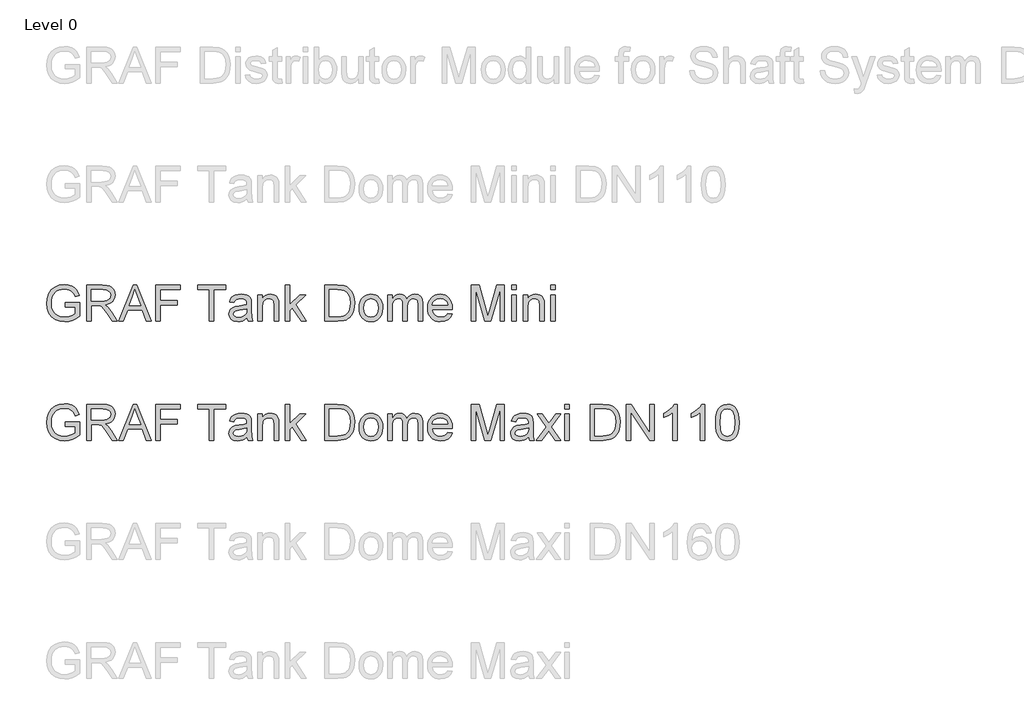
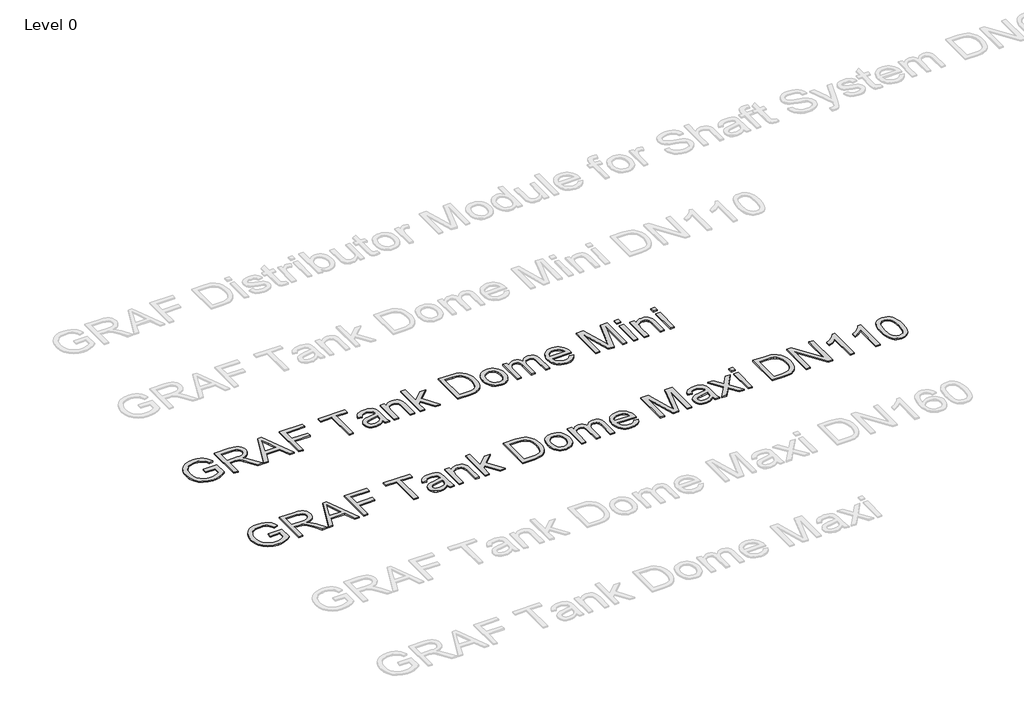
# One storey, part 9 of 25: 2 proxies.
"""IFC4 building model written with IfcOpenShell, lengths in millimetres."""

from ifc_helpers import new_model, si_unit, origin, origin_with_axes, place, context, project, spatial, polyline, outline, extrude, element, save

model = new_model("IFC4")

# Units and contexts
model_context = context("Model", 3, world=origin())
ifc_project = project(units=[si_unit("LENGTHUNIT", "METRE", prefix="MILLI")], contexts=[model_context])

# Site, building, storey
site = spatial("IfcSite", under=ifc_project)
building = spatial("IfcBuilding", under=site)
storey = spatial("IfcBuildingStorey", under=building, Name="Level 0", Elevation=0.0)

# Proxies
placement = place(None, origin())
element("IfcBuildingElementProxy", 1, Name="300mm Arial", ObjectType="300mm Arial", at=placement, inside=storey, context=model_context, shape_type="SweptSolid", body=[
    extrude(outline(polyline([(-15240.9940387, -2083.2545597), (-15240.9940387, -2045.5834434), (-15118.5629107, -2045.5834434), (-15118.5629107, -2158.2289103), (-15148.3153671, -2178.9222726), (-15179.0059225, -2193.7663111), (-15210.5610007, -2202.7058436), (-15242.9070251, -2205.6856877), (-15285.1674693, -2200.949207), (-15323.3628175, -2186.739765), (-15355.0926395, -2163.5540022), (-15377.9565055, -2131.8885595), (-15391.7796715, -2093.9047435), (-15396.3873935, -2051.7638609), (-15391.7980656, -2009.3194757), (-15378.0300819, -1969.8365406), (-15355.6536596, -1936.717964), (-15325.2390156, -1913.3666543), (-15288.1932987, -1899.5158972), (-15245.9236575, -1894.8989782), (-15214.8928112, -1897.5753197), (-15186.9889618, -1905.6043443), (-15163.4904994, -1918.4066377), (-15145.6758138, -1935.4027859), (-15132.4964413, -1957.4113262), (-15122.9039183, -1985.2507962), (-15157.6319786, -1995.0364573), (-15165.3850917, -1975.1800266), (-15174.8120678, -1960.1980323), (-15187.2832674, -1948.9040551), (-15204.169051, -1940.1116754), (-15224.3013932, -1934.4554897), (-15246.5122687, -1932.5700945), (-15272.5123287, -1934.6026425), (-15294.7415982, -1940.7002866), (-15313.1173039, -1950.0996716), (-15327.5566722, -1962.0374423), (-15346.9440533, -1991.0633317), (-15355.7732212, -2019.50061), (-15358.7162772, -2050.2187566), (-15355.175413, -2086.2436009), (-15344.5528204, -2115.8856927), (-15327.1703961, -2138.9334997), (-15303.3500369, -2155.1754898), (-15275.4737787, -2164.804801), (-15245.9236575, -2168.0145714), (-15219.831627, -2165.5957473), (-15194.3833899, -2158.3392749), (-15172.2828791, -2148.3420817), (-15156.234027, -2137.701095), (-15156.234027, -2083.2545597), (-15240.9940387, -2083.2545597)])), origin_with_axes(), (0.0, 0.0, 1.0), 10.0),
    extrude(outline(polyline([(-15057.3473467, -2200.9767982), (-15057.3473467, -1899.6078677), (-14927.4850024, -1899.6078677), (-14892.5821982, -1901.6404158), (-14867.1891434, -1907.7380598), (-14848.6294968, -1918.9952489), (-14834.2269167, -1936.5064318), (-14824.9838815, -1958.2206666), (-14821.9028698, -1982.087011), (-14827.0072325, -2011.7750881), (-14842.3203206, -2036.3863935), (-14853.9200997, -2046.4157764), (-14868.3019865, -2054.4310054), (-14905.4120827, -2064.4190016), (-14884.0013506, -2080.532233), (-14853.467145, -2119.3069952), (-14803.2144645, -2200.9767982), (-14846.9924219, -2200.9767982), (-14886.2086426, -2138.5104354), (-14914.5355562, -2097.1604991), (-14934.4379722, -2077.6259652), (-14952.3538253, -2070.4522663), (-14974.2060158, -2069.1278911), (-15019.6762304, -2069.1278911), (-15019.6762304, -2200.9767982), (-15057.3473467, -2200.9767982)]), holes=[polyline([(-15019.6762304, -2031.4567748), (-14935.3576771, -2031.4567748), (-14911.1418448, -2030.1232026), (-14892.3522719, -2026.1224859), (-14878.2072092, -2019.1879103), (-14867.9249074, -2009.0527613), (-14861.6617165, -1996.7930938), (-14859.5739861, -1983.4849626), (-14863.5563087, -1965.109257), (-14875.5032765, -1950.3020067), (-14896.058683, -1940.5347397), (-14925.8663217, -1937.278984), (-15019.6762304, -1937.278984), (-15019.6762304, -2031.4567748)])]), origin_with_axes(), (0.0, 0.0, 1.0), 10.0),
    extrude(outline(polyline([(-14791.0743586, -2200.9767982), (-14670.7769462, -1899.6078677), (-14638.6976362, -1899.6078677), (-14518.4002238, -2200.9767982), (-14558.2050557, -2200.9767982), (-14592.7123868, -2106.7990074), (-14716.835772, -2106.7990074), (-14751.2695268, -2200.9767982), (-14791.0743586, -2200.9767982)]), holes=[polyline([(-14703.003409, -2069.1278911), (-14606.4711735, -2069.1278911), (-14633.6208647, -1995.0364573), (-14654.7372912, -1937.278984), (-14673.499273, -1988.5617342), (-14703.003409, -2069.1278911)])]), origin_with_axes(), (0.0, 0.0, 1.0), 10.0),
    extrude(outline(polyline([(-14478.1539335, -2200.9767982), (-14478.1539335, -1899.6078677), (-14275.6716834, -1899.6078677), (-14275.6716834, -1937.278984), (-14440.4828172, -1937.278984), (-14440.4828172, -2026.7478853), (-14299.2161311, -2026.7478853), (-14299.2161311, -2064.4190016), (-14440.4828172, -2064.4190016), (-14440.4828172, -2200.9767982), (-14478.1539335, -2200.9767982)])), origin_with_axes(), (0.0, 0.0, 1.0), 10.0),
    extrude(outline(polyline([(-14030.8094274, -2200.9767982), (-14030.8094274, -1937.278984), (-14129.6961077, -1937.278984), (-14129.6961077, -1899.6078677), (-13894.2516308, -1899.6078677), (-13894.2516308, -1937.278984), (-13993.1383111, -1937.278984), (-13993.1383111, -2200.9767982), (-14030.8094274, -2200.9767982)])), origin_with_axes(), (0.0, 0.0, 1.0), 10.0),
    extrude(outline(polyline([(-13715.3138283, -2172.7234609), (-13733.312455, -2188.1561106), (-13751.8445105, -2198.2544714), (-13771.3330592, -2203.8278836), (-13792.2011653, -2205.6856877), (-13823.6826671, -2201.2159215), (-13846.905218, -2187.8066228), (-13861.2250247, -2167.4443543), (-13865.9982936, -2142.1156789), (-13864.1956718, -2126.4990883), (-13858.7878065, -2112.3172373), (-13850.4460822, -2100.1771315), (-13839.8418837, -2090.685776), (-13813.4647447, -2078.324941), (-13780.8703999, -2072.6595583), (-13742.353155, -2066.6998699), (-13715.5345575, -2059.710112), (-13715.3138283, -2051.3224025), (-13717.9073964, -2034.5101954), (-13725.6881006, -2023.5105237), (-13743.088919, -2015.3435434), (-13767.3323425, -2012.6212166), (-13789.7731442, -2014.4330355), (-13805.4449172, -2019.868492), (-13816.1318891, -2029.9208675), (-13823.6182877, -2045.5834434), (-13861.289404, -2040.8745539), (-13854.7503016, -2020.2731621), (-13844.9922316, -2004.0863544), (-13831.1046863, -1991.7071252), (-13812.1771577, -1982.5284694), (-13789.0281831, -1976.8446926), (-13762.4763001, -1974.9501003), (-13737.009669, -1976.6239634), (-13716.8221445, -1981.6455527), (-13701.601027, -1989.1963306), (-13691.0336167, -1998.4577598), (-13684.0254646, -2009.9080869), (-13679.482122, -2024.0255585), (-13677.642712, -2056.9877853), (-13677.642712, -2103.8559515), (-13675.7297257, -2169.3021584), (-13668.224933, -2200.9767982), (-13705.8960493, -2200.9767982), (-13715.3138283, -2172.7234609)]), holes=[polyline([(-13715.3138283, -2097.3812283), (-13776.0879339, -2108.932723), (-13808.4983377, -2115.0395641), (-13823.1768293, -2124.972378), (-13828.3271773, -2139.4669286), (-13825.522077, -2150.6689353), (-13817.1067764, -2159.8475911), (-13803.2652163, -2165.9728263), (-13784.1813378, -2168.0145714), (-13763.9478281, -2165.7612942), (-13746.0687631, -2159.0014625), (-13731.5742125, -2149.0410575), (-13721.4942459, -2137.1860602), (-13717.0244796, -2124.972378), (-13715.5345575, -2108.0498062), (-13715.3138283, -2097.3812283)])]), origin_with_axes(), (0.0, 0.0, 1.0), 10.0),
    extrude(outline(polyline([(-13625.8449271, -2200.9767982), (-13625.8449271, -1979.6589899), (-13588.1738108, -1979.6589899), (-13588.1738108, -2010.5610775), (-13575.0864088, -1994.981275), (-13559.3686506, -1983.8528446), (-13541.0205361, -1977.1757864), (-13520.0420653, -1974.9501003), (-13501.4732216, -1976.7435251), (-13484.4678764, -1982.1237992), (-13470.2860255, -1990.4195382), (-13460.1876647, -2000.9593574), (-13448.8936874, -2028.6608716), (-13446.9071247, -2065.0811892), (-13446.9071247, -2200.9767982), (-13484.578241, -2200.9767982), (-13484.578241, -2070.1579607), (-13488.9192485, -2036.8278519), (-13494.9249221, -2026.9042351), (-13504.2599277, -2019.2063044), (-13516.2252896, -2014.2674886), (-13530.122032, -2012.6212166), (-13552.1857546, -2016.3184307), (-13570.9937216, -2027.4100729), (-13578.5100106, -2036.4645685), (-13583.8787885, -2048.8391991), (-13588.1738108, -2083.5488653), (-13588.1738108, -2200.9767982), (-13625.8449271, -2200.9767982)])), origin_with_axes(), (0.0, 0.0, 1.0), 10.0),
    extrude(outline(polyline([(-13395.1093397, -2200.9767982), (-13395.1093397, -1899.6078677), (-13357.4382234, -1899.6078677), (-13357.4382234, -2061.549522), (-13272.9725173, -1979.6589899), (-13220.8804268, -1979.6589899), (-13306.3762025, -2062.5795916), (-13216.1715373, -2200.9767982), (-13260.1702239, -2200.9767982), (-13333.3787409, -2088.7727896), (-13357.4382234, -2112.0965081), (-13357.4382234, -2200.9767982), (-13395.1093397, -2200.9767982)])), origin_with_axes(), (0.0, 0.0, 1.0), 10.0),
    extrude(outline(polyline([(-13060.7781825, -2200.9767982), (-13060.7781825, -1899.6078677), (-12956.8147307, -1899.6078677), (-12903.030383, -1903.9488753), (-12879.0076887, -1912.3181907), (-12858.7373908, -1925.5067602), (-12837.8968757, -1948.4625967), (-12823.0528372, -1977.0102395), (-12814.1684871, -2010.5978657), (-12811.207037, -2048.6736522), (-12813.2119939, -2081.0196766), (-12819.2268645, -2109.484546), (-12828.3871262, -2133.7187724), (-12839.8282562, -2153.372868), (-12852.9984316, -2168.8882911), (-12867.3458295, -2180.7065002), (-12883.8177458, -2189.4712888), (-12903.3614768, -2195.8264502), (-12951.8115355, -2200.9767982), (-13060.7781825, -2200.9767982)]), holes=[polyline([(-13023.1070662, -2163.3056819), (-12956.4468487, -2163.3056819), (-12928.8740931, -2161.9445185), (-12907.9600017, -2157.8610283), (-12892.1778641, -2151.2943347), (-12880.0009701, -2142.4835609), (-12866.9135681, -2126.1771915), (-12857.0819218, -2105.069962), (-12850.9290954, -2079.069902), (-12848.8781533, -2048.085041), (-12852.8972641, -2007.0294103), (-12864.9545965, -1976.7159339), (-12882.7692821, -1955.893813), (-12904.0604526, -1943.3122488), (-12925.7287021, -1938.7873002), (-12957.4769183, -1937.278984), (-13023.1070662, -1937.278984), (-13023.1070662, -2163.3056819)])]), origin_with_axes(), (0.0, 0.0, 1.0), 10.0),
    extrude(outline(polyline([(-12773.5359207, -2090.317894), (-12771.4987741, -2061.6552881), (-12765.3873345, -2036.9566106), (-12755.2016018, -2016.2218617), (-12740.9415759, -1999.4510412), (-12726.5849811, -1988.7318796), (-12710.7384641, -1981.0753356), (-12693.4020251, -1976.4814091), (-12674.575664, -1974.9501003), (-12653.7926305, -1976.8148022), (-12635.0007584, -1982.4089078), (-12618.2000475, -1991.7324171), (-12603.3904979, -2004.7853302), (-12591.3032751, -2021.1261885), (-12582.6695445, -2040.3135338), (-12577.4893062, -2062.3473661), (-12575.7625601, -2087.2276853), (-12578.8159806, -2125.2850777), (-12587.9762423, -2154.2557848), (-12602.9766307, -2175.9516255), (-12623.5504313, -2192.1844185), (-12647.9869928, -2202.3103704), (-12674.575664, -2205.6856877), (-12695.6622001, -2203.8278836), (-12714.6288162, -2198.2544714), (-12731.4755123, -2188.965451), (-12746.2022884, -2175.9608225), (-12758.1607526, -2159.461315), (-12766.7025126, -2139.6876578), (-12771.8275687, -2116.6398508), (-12773.5359207, -2090.317894)]), holes=[polyline([(-12735.8648044, -2090.2443176), (-12731.5054027, -2124.3377815), (-12718.4271978, -2148.6271903), (-12698.7455111, -2163.1677261), (-12674.575664, -2168.0145714), (-12650.5161815, -2163.140135), (-12630.871283, -2148.5168257), (-12617.793078, -2123.9055202), (-12613.4336764, -2089.0670952), (-12617.8206692, -2055.9669127), (-12630.9816476, -2032.0085978), (-12650.6541372, -2017.4680619), (-12674.575664, -2012.6212166), (-12698.7455111, -2017.4496678), (-12718.4271978, -2031.9350214), (-12731.5054027, -2056.1692478), (-12735.8648044, -2090.2443176)])]), origin_with_axes(), (0.0, 0.0, 1.0), 10.0),
    extrude(outline(polyline([(-12533.3825542, -2200.9767982), (-12533.3825542, -1979.6589899), (-12495.7114379, -1979.6589899), (-12495.7114379, -2016.0793074), (-12484.3806725, -1999.3498737), (-12469.8125455, -1986.2440776), (-12452.5036976, -1977.7735947), (-12432.9507696, -1974.9501003), (-12411.9998899, -1977.828777), (-12395.2060768, -1986.4648068), (-12382.6613008, -2000.2879728), (-12374.4575323, -2018.7280578), (-12360.7263368, -1999.5752014), (-12345.0637609, -1985.8945897), (-12327.4698045, -1977.6862227), (-12307.9444676, -1974.9501003), (-12279.626751, -1979.50264), (-12258.6850684, -1993.1602591), (-12245.7448193, -2016.2908395), (-12241.4314029, -2049.2622634), (-12241.4314029, -2200.9767982), (-12279.1025192, -2200.9767982), (-12279.1025192, -2065.4490712), (-12282.5973981, -2033.9951606), (-12287.5086228, -2025.3223425), (-12295.2525388, -2018.5073286), (-12305.2129438, -2014.0927446), (-12316.7736355, -2012.6212166), (-12337.1818892, -2016.3920071), (-12353.8193524, -2027.7043784), (-12364.8834034, -2047.3308829), (-12368.5714204, -2076.0440726), (-12368.5714204, -2200.9767982), (-12406.2425367, -2200.9767982), (-12406.2425367, -2061.2552164), (-12408.4222375, -2039.9548489), (-12414.96134, -2024.7613225), (-12426.4668494, -2015.6562431), (-12443.545771, -2012.6212166), (-12458.0587157, -2014.6445676), (-12471.4312262, -2020.7146205), (-12482.4676861, -2030.6842226), (-12489.9724788, -2044.406221), (-12494.2766981, -2063.4441143), (-12495.7114379, -2089.3614008), (-12495.7114379, -2200.9767982), (-12533.3825542, -2200.9767982)])), origin_with_axes(), (0.0, 0.0, 1.0), 10.0),
    extrude(outline(polyline([(-12029.972832, -2135.0523446), (-11993.0374797, -2139.7612342), (-12006.3456109, -2167.5915071), (-12027.5815991, -2188.3952339), (-12056.2671976, -2201.3630743), (-12091.92416, -2205.6856877), (-12115.2984623, -2203.8209859), (-12136.1251817, -2198.2268803), (-12154.4043184, -2188.9033709), (-12170.1358722, -2175.8504579), (-12182.7864143, -2159.4314246), (-12191.8225158, -2140.0095545), (-12197.2441767, -2117.5848477), (-12199.051397, -2092.157304), (-12197.2257826, -2065.8675369), (-12191.7489394, -2042.6955698), (-12182.6208674, -2022.6414025), (-12169.8415666, -2005.7050351), (-12154.1513995, -1992.2497512), (-12136.2907286, -1982.638834), (-12116.259554, -1976.8722838), (-12094.0578756, -1974.9501003), (-12072.5712678, -1976.8676852), (-12053.1402007, -1982.6204399), (-12035.7646742, -1992.2083644), (-12020.4446884, -2005.6314587), (-12007.9389998, -2022.5310379), (-11999.0063651, -2042.548417), (-11993.6467843, -2065.6835959), (-11991.8602573, -2091.9365748), (-11992.0809865, -2102.0901179), (-12161.3802807, -2102.0901179), (-12154.8595723, -2130.2882728), (-12139.7120312, -2151.0184232), (-12117.8506436, -2163.7655344), (-12091.188396, -2168.0145714), (-12071.1388273, -2166.0464027), (-12054.2530437, -2160.1418967), (-12040.5310453, -2149.9331713), (-12029.972832, -2135.0523446)]), holes=[polyline([(-12161.3802807, -2064.4190016), (-12029.5313736, -2064.4190016), (-12034.6265393, -2044.5165856), (-12044.6145354, -2030.2795524), (-12066.5770906, -2017.0358006), (-12094.2050284, -2012.6212166), (-12119.5980831, -2016.1436868), (-12140.594948, -2026.7110971), (-12155.1906661, -2043.1830134), (-12161.3802807, -2064.4190016)])]), origin_with_axes(), (0.0, 0.0, 1.0), 10.0),
    extrude(outline(polyline([(-11831.758013, -2200.9767982), (-11831.758013, -1899.6078677), (-11766.9372055, -1899.6078677), (-11705.2801831, -2112.0229317), (-11692.8457717, -2156.3895004), (-11679.3812906, -2108.3441118), (-11618.7543378, -1899.6078677), (-11553.9335303, -1899.6078677), (-11553.9335303, -2200.9767982), (-11591.6046466, -2200.9767982), (-11591.6046466, -1937.278984), (-11667.3147612, -2200.9767982), (-11718.3767821, -2200.9767982), (-11794.0868967, -1937.278984), (-11794.0868967, -2200.9767982), (-11831.758013, -2200.9767982)])), origin_with_axes(), (0.0, 0.0, 1.0), 10.0),
    extrude(outline(polyline([(-11492.7179663, -1937.278984), (-11492.7179663, -1899.6078677), (-11455.04685, -1899.6078677), (-11455.04685, -1937.278984), (-11492.7179663, -1937.278984)])), origin_with_axes(), (0.0, 0.0, 1.0), 10.0),
    extrude(outline(polyline([(-11492.7179663, -2200.9767982), (-11492.7179663, -1979.6589899), (-11455.04685, -1979.6589899), (-11455.04685, -2200.9767982), (-11492.7179663, -2200.9767982)])), origin_with_axes(), (0.0, 0.0, 1.0), 10.0),
    extrude(outline(polyline([(-11398.5401755, -2200.9767982), (-11398.5401755, -1979.6589899), (-11360.8690592, -1979.6589899), (-11360.8690592, -2010.5610775), (-11347.7816572, -1994.981275), (-11332.063899, -1983.8528446), (-11313.7157845, -1977.1757864), (-11292.7373137, -1974.9501003), (-11274.16847, -1976.7435251), (-11257.1631248, -1982.1237992), (-11242.9812739, -1990.4195382), (-11232.8829131, -2000.9593574), (-11221.5889358, -2028.6608716), (-11219.6023731, -2065.0811892), (-11219.6023731, -2200.9767982), (-11257.2734894, -2200.9767982), (-11257.2734894, -2070.1579607), (-11261.6144969, -2036.8278519), (-11267.6201705, -2026.9042351), (-11276.9551761, -2019.2063044), (-11288.920538, -2014.2674886), (-11302.8172804, -2012.6212166), (-11324.881003, -2016.3184307), (-11343.68897, -2027.4100729), (-11351.205259, -2036.4645685), (-11356.5740369, -2048.8391991), (-11360.8690592, -2083.5488653), (-11360.8690592, -2200.9767982), (-11398.5401755, -2200.9767982)])), origin_with_axes(), (0.0, 0.0, 1.0), 10.0),
    extrude(outline(polyline([(-11167.8045881, -1937.278984), (-11167.8045881, -1899.6078677), (-11130.1334718, -1899.6078677), (-11130.1334718, -1937.278984), (-11167.8045881, -1937.278984)])), origin_with_axes(), (0.0, 0.0, 1.0), 10.0),
    extrude(outline(polyline([(-11167.8045881, -2200.9767982), (-11167.8045881, -1979.6589899), (-11130.1334718, -1979.6589899), (-11130.1334718, -2200.9767982), (-11167.8045881, -2200.9767982)])), origin_with_axes(), (0.0, 0.0, 1.0), 10.0),
])
element("IfcBuildingElementProxy", 2, Name="300mm Arial", ObjectType="300mm Arial", at=placement, inside=storey, context=model_context, shape_type="SweptSolid", body=[
    extrude(outline(polyline([(-15240.9940387, -3083.2545597), (-15240.9940387, -3045.5834434), (-15118.5629107, -3045.5834434), (-15118.5629107, -3158.2289103), (-15148.3153671, -3178.9222726), (-15179.0059225, -3193.7663111), (-15210.5610007, -3202.7058436), (-15242.9070251, -3205.6856877), (-15285.1674693, -3200.949207), (-15323.3628175, -3186.739765), (-15355.0926395, -3163.5540022), (-15377.9565055, -3131.8885595), (-15391.7796715, -3093.9047435), (-15396.3873935, -3051.7638609), (-15391.7980656, -3009.3194757), (-15378.0300819, -2969.8365406), (-15355.6536596, -2936.717964), (-15325.2390156, -2913.3666543), (-15288.1932987, -2899.5158972), (-15245.9236575, -2894.8989782), (-15214.8928112, -2897.5753197), (-15186.9889618, -2905.6043443), (-15163.4904994, -2918.4066377), (-15145.6758138, -2935.4027859), (-15132.4964413, -2957.4113262), (-15122.9039183, -2985.2507962), (-15157.6319786, -2995.0364573), (-15165.3850917, -2975.1800266), (-15174.8120678, -2960.1980323), (-15187.2832674, -2948.9040551), (-15204.169051, -2940.1116754), (-15224.3013932, -2934.4554897), (-15246.5122687, -2932.5700945), (-15272.5123287, -2934.6026425), (-15294.7415982, -2940.7002866), (-15313.1173039, -2950.0996716), (-15327.5566722, -2962.0374423), (-15346.9440533, -2991.0633317), (-15355.7732212, -3019.50061), (-15358.7162772, -3050.2187566), (-15355.175413, -3086.2436009), (-15344.5528204, -3115.8856927), (-15327.1703961, -3138.9334997), (-15303.3500369, -3155.1754898), (-15275.4737787, -3164.804801), (-15245.9236575, -3168.0145714), (-15219.831627, -3165.5957473), (-15194.3833899, -3158.3392749), (-15172.2828791, -3148.3420817), (-15156.234027, -3137.701095), (-15156.234027, -3083.2545597), (-15240.9940387, -3083.2545597)])), origin_with_axes(), (0.0, 0.0, 1.0), 10.0),
    extrude(outline(polyline([(-15057.3473467, -3200.9767982), (-15057.3473467, -2899.6078677), (-14927.4850024, -2899.6078677), (-14892.5821982, -2901.6404158), (-14867.1891434, -2907.7380598), (-14848.6294968, -2918.9952489), (-14834.2269167, -2936.5064318), (-14824.9838815, -2958.2206666), (-14821.9028698, -2982.087011), (-14827.0072325, -3011.7750881), (-14842.3203206, -3036.3863935), (-14853.9200997, -3046.4157764), (-14868.3019865, -3054.4310054), (-14905.4120827, -3064.4190016), (-14884.0013506, -3080.532233), (-14853.467145, -3119.3069952), (-14803.2144645, -3200.9767982), (-14846.9924219, -3200.9767982), (-14886.2086426, -3138.5104354), (-14914.5355562, -3097.1604991), (-14934.4379722, -3077.6259652), (-14952.3538253, -3070.4522663), (-14974.2060158, -3069.1278911), (-15019.6762304, -3069.1278911), (-15019.6762304, -3200.9767982), (-15057.3473467, -3200.9767982)]), holes=[polyline([(-15019.6762304, -3031.4567748), (-14935.3576771, -3031.4567748), (-14911.1418448, -3030.1232026), (-14892.3522719, -3026.1224859), (-14878.2072092, -3019.1879103), (-14867.9249074, -3009.0527613), (-14861.6617165, -2996.7930938), (-14859.5739861, -2983.4849626), (-14863.5563087, -2965.109257), (-14875.5032765, -2950.3020067), (-14896.058683, -2940.5347397), (-14925.8663217, -2937.278984), (-15019.6762304, -2937.278984), (-15019.6762304, -3031.4567748)])]), origin_with_axes(), (0.0, 0.0, 1.0), 10.0),
    extrude(outline(polyline([(-14791.0743586, -3200.9767982), (-14670.7769462, -2899.6078677), (-14638.6976362, -2899.6078677), (-14518.4002238, -3200.9767982), (-14558.2050557, -3200.9767982), (-14592.7123868, -3106.7990074), (-14716.835772, -3106.7990074), (-14751.2695268, -3200.9767982), (-14791.0743586, -3200.9767982)]), holes=[polyline([(-14703.003409, -3069.1278911), (-14606.4711735, -3069.1278911), (-14633.6208647, -2995.0364573), (-14654.7372912, -2937.278984), (-14673.499273, -2988.5617342), (-14703.003409, -3069.1278911)])]), origin_with_axes(), (0.0, 0.0, 1.0), 10.0),
    extrude(outline(polyline([(-14478.1539335, -3200.9767982), (-14478.1539335, -2899.6078677), (-14275.6716834, -2899.6078677), (-14275.6716834, -2937.278984), (-14440.4828172, -2937.278984), (-14440.4828172, -3026.7478853), (-14299.2161311, -3026.7478853), (-14299.2161311, -3064.4190016), (-14440.4828172, -3064.4190016), (-14440.4828172, -3200.9767982), (-14478.1539335, -3200.9767982)])), origin_with_axes(), (0.0, 0.0, 1.0), 10.0),
    extrude(outline(polyline([(-14030.8094274, -3200.9767982), (-14030.8094274, -2937.278984), (-14129.6961077, -2937.278984), (-14129.6961077, -2899.6078677), (-13894.2516308, -2899.6078677), (-13894.2516308, -2937.278984), (-13993.1383111, -2937.278984), (-13993.1383111, -3200.9767982), (-14030.8094274, -3200.9767982)])), origin_with_axes(), (0.0, 0.0, 1.0), 10.0),
    extrude(outline(polyline([(-13715.3138283, -3172.7234609), (-13733.312455, -3188.1561106), (-13751.8445105, -3198.2544714), (-13771.3330592, -3203.8278836), (-13792.2011653, -3205.6856877), (-13823.6826671, -3201.2159215), (-13846.905218, -3187.8066228), (-13861.2250247, -3167.4443543), (-13865.9982936, -3142.1156789), (-13864.1956718, -3126.4990883), (-13858.7878065, -3112.3172373), (-13850.4460822, -3100.1771315), (-13839.8418837, -3090.685776), (-13813.4647447, -3078.324941), (-13780.8703999, -3072.6595583), (-13742.353155, -3066.6998699), (-13715.5345575, -3059.710112), (-13715.3138283, -3051.3224025), (-13717.9073964, -3034.5101954), (-13725.6881006, -3023.5105237), (-13743.088919, -3015.3435434), (-13767.3323425, -3012.6212166), (-13789.7731442, -3014.4330355), (-13805.4449172, -3019.868492), (-13816.1318891, -3029.9208675), (-13823.6182877, -3045.5834434), (-13861.289404, -3040.8745539), (-13854.7503016, -3020.2731621), (-13844.9922316, -3004.0863544), (-13831.1046863, -2991.7071252), (-13812.1771577, -2982.5284694), (-13789.0281831, -2976.8446926), (-13762.4763001, -2974.9501003), (-13737.009669, -2976.6239634), (-13716.8221445, -2981.6455527), (-13701.601027, -2989.1963306), (-13691.0336167, -2998.4577598), (-13684.0254646, -3009.9080869), (-13679.482122, -3024.0255585), (-13677.642712, -3056.9877853), (-13677.642712, -3103.8559515), (-13675.7297257, -3169.3021584), (-13668.224933, -3200.9767982), (-13705.8960493, -3200.9767982), (-13715.3138283, -3172.7234609)]), holes=[polyline([(-13715.3138283, -3097.3812283), (-13776.0879339, -3108.932723), (-13808.4983377, -3115.0395641), (-13823.1768293, -3124.972378), (-13828.3271773, -3139.4669286), (-13825.522077, -3150.6689353), (-13817.1067764, -3159.8475911), (-13803.2652163, -3165.9728263), (-13784.1813378, -3168.0145714), (-13763.9478281, -3165.7612942), (-13746.0687631, -3159.0014625), (-13731.5742125, -3149.0410575), (-13721.4942459, -3137.1860602), (-13717.0244796, -3124.972378), (-13715.5345575, -3108.0498062), (-13715.3138283, -3097.3812283)])]), origin_with_axes(), (0.0, 0.0, 1.0), 10.0),
    extrude(outline(polyline([(-13625.8449271, -3200.9767982), (-13625.8449271, -2979.6589899), (-13588.1738108, -2979.6589899), (-13588.1738108, -3010.5610775), (-13575.0864088, -2994.981275), (-13559.3686506, -2983.8528446), (-13541.0205361, -2977.1757864), (-13520.0420653, -2974.9501003), (-13501.4732216, -2976.7435251), (-13484.4678764, -2982.1237992), (-13470.2860255, -2990.4195382), (-13460.1876647, -3000.9593574), (-13448.8936874, -3028.6608716), (-13446.9071247, -3065.0811892), (-13446.9071247, -3200.9767982), (-13484.578241, -3200.9767982), (-13484.578241, -3070.1579607), (-13488.9192485, -3036.8278519), (-13494.9249221, -3026.9042351), (-13504.2599277, -3019.2063044), (-13516.2252896, -3014.2674886), (-13530.122032, -3012.6212166), (-13552.1857546, -3016.3184307), (-13570.9937216, -3027.4100729), (-13578.5100106, -3036.4645685), (-13583.8787885, -3048.8391991), (-13588.1738108, -3083.5488653), (-13588.1738108, -3200.9767982), (-13625.8449271, -3200.9767982)])), origin_with_axes(), (0.0, 0.0, 1.0), 10.0),
    extrude(outline(polyline([(-13395.1093397, -3200.9767982), (-13395.1093397, -2899.6078677), (-13357.4382234, -2899.6078677), (-13357.4382234, -3061.549522), (-13272.9725173, -2979.6589899), (-13220.8804268, -2979.6589899), (-13306.3762025, -3062.5795916), (-13216.1715373, -3200.9767982), (-13260.1702239, -3200.9767982), (-13333.3787409, -3088.7727896), (-13357.4382234, -3112.0965081), (-13357.4382234, -3200.9767982), (-13395.1093397, -3200.9767982)])), origin_with_axes(), (0.0, 0.0, 1.0), 10.0),
    extrude(outline(polyline([(-13060.7781825, -3200.9767982), (-13060.7781825, -2899.6078677), (-12956.8147307, -2899.6078677), (-12903.030383, -2903.9488753), (-12879.0076887, -2912.3181907), (-12858.7373908, -2925.5067602), (-12837.8968757, -2948.4625967), (-12823.0528372, -2977.0102395), (-12814.1684871, -3010.5978657), (-12811.207037, -3048.6736522), (-12813.2119939, -3081.0196766), (-12819.2268645, -3109.484546), (-12828.3871262, -3133.7187724), (-12839.8282562, -3153.372868), (-12852.9984316, -3168.8882911), (-12867.3458295, -3180.7065002), (-12883.8177458, -3189.4712888), (-12903.3614768, -3195.8264502), (-12951.8115355, -3200.9767982), (-13060.7781825, -3200.9767982)]), holes=[polyline([(-13023.1070662, -3163.3056819), (-12956.4468487, -3163.3056819), (-12928.8740931, -3161.9445185), (-12907.9600017, -3157.8610283), (-12892.1778641, -3151.2943347), (-12880.0009701, -3142.4835609), (-12866.9135681, -3126.1771915), (-12857.0819218, -3105.069962), (-12850.9290954, -3079.069902), (-12848.8781533, -3048.085041), (-12852.8972641, -3007.0294103), (-12864.9545965, -2976.7159339), (-12882.7692821, -2955.893813), (-12904.0604526, -2943.3122488), (-12925.7287021, -2938.7873002), (-12957.4769183, -2937.278984), (-13023.1070662, -2937.278984), (-13023.1070662, -3163.3056819)])]), origin_with_axes(), (0.0, 0.0, 1.0), 10.0),
    extrude(outline(polyline([(-12773.5359207, -3090.317894), (-12771.4987741, -3061.6552881), (-12765.3873345, -3036.9566106), (-12755.2016018, -3016.2218617), (-12740.9415759, -2999.4510412), (-12726.5849811, -2988.7318796), (-12710.7384641, -2981.0753356), (-12693.4020251, -2976.4814091), (-12674.575664, -2974.9501003), (-12653.7926305, -2976.8148022), (-12635.0007584, -2982.4089078), (-12618.2000475, -2991.7324171), (-12603.3904979, -3004.7853302), (-12591.3032751, -3021.1261885), (-12582.6695445, -3040.3135338), (-12577.4893062, -3062.3473661), (-12575.7625601, -3087.2276853), (-12578.8159806, -3125.2850777), (-12587.9762423, -3154.2557848), (-12602.9766307, -3175.9516255), (-12623.5504313, -3192.1844185), (-12647.9869928, -3202.3103704), (-12674.575664, -3205.6856877), (-12695.6622001, -3203.8278836), (-12714.6288162, -3198.2544714), (-12731.4755123, -3188.965451), (-12746.2022884, -3175.9608225), (-12758.1607526, -3159.461315), (-12766.7025126, -3139.6876578), (-12771.8275687, -3116.6398508), (-12773.5359207, -3090.317894)]), holes=[polyline([(-12735.8648044, -3090.2443176), (-12731.5054027, -3124.3377815), (-12718.4271978, -3148.6271903), (-12698.7455111, -3163.1677261), (-12674.575664, -3168.0145714), (-12650.5161815, -3163.140135), (-12630.871283, -3148.5168257), (-12617.793078, -3123.9055202), (-12613.4336764, -3089.0670952), (-12617.8206692, -3055.9669127), (-12630.9816476, -3032.0085978), (-12650.6541372, -3017.4680619), (-12674.575664, -3012.6212166), (-12698.7455111, -3017.4496678), (-12718.4271978, -3031.9350214), (-12731.5054027, -3056.1692478), (-12735.8648044, -3090.2443176)])]), origin_with_axes(), (0.0, 0.0, 1.0), 10.0),
    extrude(outline(polyline([(-12533.3825542, -3200.9767982), (-12533.3825542, -2979.6589899), (-12495.7114379, -2979.6589899), (-12495.7114379, -3016.0793074), (-12484.3806725, -2999.3498737), (-12469.8125455, -2986.2440776), (-12452.5036976, -2977.7735947), (-12432.9507696, -2974.9501003), (-12411.9998899, -2977.828777), (-12395.2060768, -2986.4648068), (-12382.6613008, -3000.2879728), (-12374.4575323, -3018.7280578), (-12360.7263368, -2999.5752014), (-12345.0637609, -2985.8945897), (-12327.4698045, -2977.6862227), (-12307.9444676, -2974.9501003), (-12279.626751, -2979.50264), (-12258.6850684, -2993.1602591), (-12245.7448193, -3016.2908395), (-12241.4314029, -3049.2622634), (-12241.4314029, -3200.9767982), (-12279.1025192, -3200.9767982), (-12279.1025192, -3065.4490712), (-12282.5973981, -3033.9951606), (-12287.5086228, -3025.3223425), (-12295.2525388, -3018.5073286), (-12305.2129438, -3014.0927446), (-12316.7736355, -3012.6212166), (-12337.1818892, -3016.3920071), (-12353.8193524, -3027.7043784), (-12364.8834034, -3047.3308829), (-12368.5714204, -3076.0440726), (-12368.5714204, -3200.9767982), (-12406.2425367, -3200.9767982), (-12406.2425367, -3061.2552164), (-12408.4222375, -3039.9548489), (-12414.96134, -3024.7613225), (-12426.4668494, -3015.6562431), (-12443.545771, -3012.6212166), (-12458.0587157, -3014.6445676), (-12471.4312262, -3020.7146205), (-12482.4676861, -3030.6842226), (-12489.9724788, -3044.406221), (-12494.2766981, -3063.4441143), (-12495.7114379, -3089.3614008), (-12495.7114379, -3200.9767982), (-12533.3825542, -3200.9767982)])), origin_with_axes(), (0.0, 0.0, 1.0), 10.0),
    extrude(outline(polyline([(-12029.972832, -3135.0523446), (-11993.0374797, -3139.7612342), (-12006.3456109, -3167.5915071), (-12027.5815991, -3188.3952339), (-12056.2671976, -3201.3630743), (-12091.92416, -3205.6856877), (-12115.2984623, -3203.8209859), (-12136.1251817, -3198.2268803), (-12154.4043184, -3188.9033709), (-12170.1358722, -3175.8504579), (-12182.7864143, -3159.4314246), (-12191.8225158, -3140.0095545), (-12197.2441767, -3117.5848477), (-12199.051397, -3092.157304), (-12197.2257826, -3065.8675369), (-12191.7489394, -3042.6955698), (-12182.6208674, -3022.6414025), (-12169.8415666, -3005.7050351), (-12154.1513995, -2992.2497512), (-12136.2907286, -2982.638834), (-12116.259554, -2976.8722838), (-12094.0578756, -2974.9501003), (-12072.5712678, -2976.8676852), (-12053.1402007, -2982.6204399), (-12035.7646742, -2992.2083644), (-12020.4446884, -3005.6314587), (-12007.9389998, -3022.5310379), (-11999.0063651, -3042.548417), (-11993.6467843, -3065.6835959), (-11991.8602573, -3091.9365748), (-11992.0809865, -3102.0901179), (-12161.3802807, -3102.0901179), (-12154.8595723, -3130.2882728), (-12139.7120312, -3151.0184232), (-12117.8506436, -3163.7655344), (-12091.188396, -3168.0145714), (-12071.1388273, -3166.0464027), (-12054.2530437, -3160.1418967), (-12040.5310453, -3149.9331713), (-12029.972832, -3135.0523446)]), holes=[polyline([(-12161.3802807, -3064.4190016), (-12029.5313736, -3064.4190016), (-12034.6265393, -3044.5165856), (-12044.6145354, -3030.2795524), (-12066.5770906, -3017.0358006), (-12094.2050284, -3012.6212166), (-12119.5980831, -3016.1436868), (-12140.594948, -3026.7110971), (-12155.1906661, -3043.1830134), (-12161.3802807, -3064.4190016)])]), origin_with_axes(), (0.0, 0.0, 1.0), 10.0),
    extrude(outline(polyline([(-11831.758013, -3200.9767982), (-11831.758013, -2899.6078677), (-11766.9372055, -2899.6078677), (-11705.2801831, -3112.0229317), (-11692.8457717, -3156.3895004), (-11679.3812906, -3108.3441118), (-11618.7543378, -2899.6078677), (-11553.9335303, -2899.6078677), (-11553.9335303, -3200.9767982), (-11591.6046466, -3200.9767982), (-11591.6046466, -2937.278984), (-11667.3147612, -3200.9767982), (-11718.3767821, -3200.9767982), (-11794.0868967, -2937.278984), (-11794.0868967, -3200.9767982), (-11831.758013, -3200.9767982)])), origin_with_axes(), (0.0, 0.0, 1.0), 10.0),
    extrude(outline(polyline([(-11351.4512801, -3172.7234609), (-11369.4499067, -3188.1561106), (-11387.9819623, -3198.2544714), (-11407.4705109, -3203.8278836), (-11428.3386171, -3205.6856877), (-11459.8201189, -3201.2159215), (-11483.0426698, -3187.8066228), (-11497.3624765, -3167.4443543), (-11502.1357454, -3142.1156789), (-11500.3331236, -3126.4990883), (-11494.9252582, -3112.3172373), (-11486.583534, -3100.1771315), (-11475.9793355, -3090.685776), (-11449.6021964, -3078.324941), (-11417.0078517, -3072.6595583), (-11378.4906068, -3066.6998699), (-11351.6720093, -3059.710112), (-11351.4512801, -3051.3224025), (-11354.0448482, -3034.5101954), (-11361.8255524, -3023.5105237), (-11379.2263708, -3015.3435434), (-11403.4697942, -3012.6212166), (-11425.910596, -3014.4330355), (-11441.5823689, -3019.868492), (-11452.2693409, -3029.9208675), (-11459.7557395, -3045.5834434), (-11497.4268558, -3040.8745539), (-11490.8877534, -3020.2731621), (-11481.1296834, -3004.0863544), (-11467.2421381, -2991.7071252), (-11448.3146095, -2982.5284694), (-11425.1656349, -2976.8446926), (-11398.6137519, -2974.9501003), (-11373.1471208, -2976.6239634), (-11352.9595963, -2981.6455527), (-11337.7384788, -2989.1963306), (-11327.1710684, -2998.4577598), (-11320.1629164, -3009.9080869), (-11315.6195738, -3024.0255585), (-11313.7801638, -3056.9877853), (-11313.7801638, -3103.8559515), (-11311.8671774, -3169.3021584), (-11304.3623847, -3200.9767982), (-11342.0335011, -3200.9767982), (-11351.4512801, -3172.7234609)]), holes=[polyline([(-11351.4512801, -3097.3812283), (-11412.2253857, -3108.932723), (-11444.6357895, -3115.0395641), (-11459.3142811, -3124.972378), (-11464.464629, -3139.4669286), (-11461.6595288, -3150.6689353), (-11453.2442282, -3159.8475911), (-11439.4026681, -3165.9728263), (-11420.3187896, -3168.0145714), (-11400.0852799, -3165.7612942), (-11382.2062149, -3159.0014625), (-11367.7116643, -3149.0410575), (-11357.6316976, -3137.1860602), (-11353.1619314, -3124.972378), (-11351.6720093, -3108.0498062), (-11351.4512801, -3097.3812283)])]), origin_with_axes(), (0.0, 0.0, 1.0), 10.0),
    extrude(outline(polyline([(-11285.5268266, -3200.9767982), (-11205.0342461, -3089.7292828), (-11280.8179371, -2979.6589899), (-11235.4948753, -2979.6589899), (-11198.9274049, -3032.6339972), (-11181.8576804, -3057.6499729), (-11167.0688241, -3037.1957339), (-11125.4245823, -2979.6589899), (-11080.1015205, -2979.6589899), (-11159.7111842, -3089.7292828), (-11083.0445764, -3200.9767982), (-11128.3676383, -3200.9767982), (-11174.5000405, -3134.0958515), (-11182.9613263, -3121.8821692), (-11240.2037648, -3200.9767982), (-11285.5268266, -3200.9767982)])), origin_with_axes(), (0.0, 0.0, 1.0), 10.0),
    extrude(outline(polyline([(-11050.0823497, -2937.278984), (-11050.0823497, -2899.6078677), (-11012.4112334, -2899.6078677), (-11012.4112334, -2937.278984), (-11050.0823497, -2937.278984)])), origin_with_axes(), (0.0, 0.0, 1.0), 10.0),
    extrude(outline(polyline([(-11050.0823497, -3200.9767982), (-11050.0823497, -2979.6589899), (-11012.4112334, -2979.6589899), (-11012.4112334, -3200.9767982), (-11050.0823497, -3200.9767982)])), origin_with_axes(), (0.0, 0.0, 1.0), 10.0),
    extrude(outline(polyline([(-10833.4734309, -3200.9767982), (-10833.4734309, -2899.6078677), (-10729.5099791, -2899.6078677), (-10675.7256314, -2903.9488753), (-10651.7029371, -2912.3181907), (-10631.4326392, -2925.5067602), (-10610.5921241, -2948.4625967), (-10595.7480856, -2977.0102395), (-10586.8637355, -3010.5978657), (-10583.9022854, -3048.6736522), (-10585.9072423, -3081.0196766), (-10591.9221129, -3109.484546), (-10601.0823746, -3133.7187724), (-10612.5235046, -3153.372868), (-10625.69368, -3168.8882911), (-10640.0410779, -3180.7065002), (-10656.5129942, -3189.4712888), (-10676.0567252, -3195.8264502), (-10724.506784, -3200.9767982), (-10833.4734309, -3200.9767982)]), holes=[polyline([(-10795.8023146, -3163.3056819), (-10729.1420971, -3163.3056819), (-10701.5693416, -3161.9445185), (-10680.6552501, -3157.8610283), (-10664.8731125, -3151.2943347), (-10652.6962185, -3142.4835609), (-10639.6088165, -3126.1771915), (-10629.7771702, -3105.069962), (-10623.6243438, -3079.069902), (-10621.5734017, -3048.085041), (-10625.5925125, -3007.0294103), (-10637.6498449, -2976.7159339), (-10655.4645305, -2955.893813), (-10676.755701, -2943.3122488), (-10698.4239505, -2938.7873002), (-10730.1721667, -2937.278984), (-10795.8023146, -2937.278984), (-10795.8023146, -3163.3056819)])]), origin_with_axes(), (0.0, 0.0, 1.0), 10.0),
    extrude(outline(polyline([(-10532.1045005, -3200.9767982), (-10532.1045005, -2899.6078677), (-10491.7846338, -2899.6078677), (-10334.3311399, -3138.3632826), (-10334.3311399, -2899.6078677), (-10296.6600236, -2899.6078677), (-10296.6600236, -3200.9767982), (-10336.9798902, -3200.9767982), (-10494.4333842, -2962.1478069), (-10494.4333842, -3200.9767982), (-10532.1045005, -3200.9767982)])), origin_with_axes(), (0.0, 0.0, 1.0), 10.0),
    extrude(outline(polyline([(-10103.5955525, -3200.9767982), (-10141.2666688, -3200.9767982), (-10141.2666688, -2966.1209325), (-10176.9512223, -2991.5415783), (-10216.6089014, -3010.5610775), (-10216.6089014, -2974.9501003), (-10187.0219919, -2958.8552631), (-10161.3898139, -2939.7070052), (-10141.1838953, -2919.3447368), (-10127.8757642, -2899.6078677), (-10103.5955525, -2899.6078677), (-10103.5955525, -3200.9767982)])), origin_with_axes(), (0.0, 0.0, 1.0), 10.0),
    extrude(outline(polyline([(-9872.8599651, -3200.9767982), (-9910.5310814, -3200.9767982), (-9910.5310814, -2966.1209325), (-9946.215635, -2991.5415783), (-9985.873314, -3010.5610775), (-9985.873314, -2974.9501003), (-9956.2864046, -2958.8552631), (-9930.6542266, -2939.7070052), (-9910.448308, -2919.3447368), (-9897.1401768, -2899.6078677), (-9872.8599651, -2899.6078677), (-9872.8599651, -3200.9767982)])), origin_with_axes(), (0.0, 0.0, 1.0), 10.0),
    extrude(outline(polyline([(-9783.3910639, -3052.7203541), (-9780.6227519, -3004.4818275), (-9772.3178158, -2966.0105679), (-9758.5590292, -2936.717964), (-9739.4291655, -2916.0154047), (-9714.7902688, -2903.709752), (-9684.5043836, -2899.6078677), (-9661.2910297, -2902.0358889), (-9640.505697, -2909.3199524), (-9623.1232727, -2921.1749497), (-9610.1186442, -2937.3157722), (-9600.2961949, -2957.6044643), (-9592.4603084, -2981.9030701), (-9587.3283546, -3012.7591724), (-9585.6177033, -3052.7203541), (-9588.3584241, -3100.6829692), (-9596.5805867, -3139.0622584), (-9610.2565999, -3168.3824534), (-9629.3588725, -3189.1677861), (-9654.0529514, -3201.5562123), (-9684.5043836, -3205.6856877), (-9705.2529281, -3203.892263), (-9723.6470279, -3198.5119888), (-9739.6866829, -3189.5448652), (-9753.3718931, -3176.9908921), (-9766.5052803, -3154.2971715), (-9775.8862712, -3126.0208417), (-9781.5148657, -3092.1619025), (-9783.3910639, -3052.7203541)]), holes=[polyline([(-9745.7199476, -3052.6467777), (-9741.3053636, -3111.9033701), (-9735.7871337, -3132.1713688), (-9728.0616118, -3146.1991691), (-9708.3431369, -3162.5607208), (-9684.5043836, -3168.0145714), (-9660.6656303, -3162.5423267), (-9640.9471554, -3146.1255927), (-9633.2216335, -3132.0747997), (-9627.7034035, -3111.8113996), (-9623.2888196, -3052.6467777), (-9627.5562507, -2994.7237576), (-9632.8905397, -2974.5224375), (-9640.3585442, -2960.1612441), (-9660.0402309, -2942.9995491), (-9684.945842, -2937.278984), (-9708.5270779, -2942.3189674), (-9727.4730006, -2957.4389174), (-9735.4560399, -2973.0739022), (-9741.1582108, -2994.1535405), (-9745.7199476, -3052.6467777)])]), origin_with_axes(), (0.0, 0.0, 1.0), 10.0),
])

save(model, "model.ifc")
